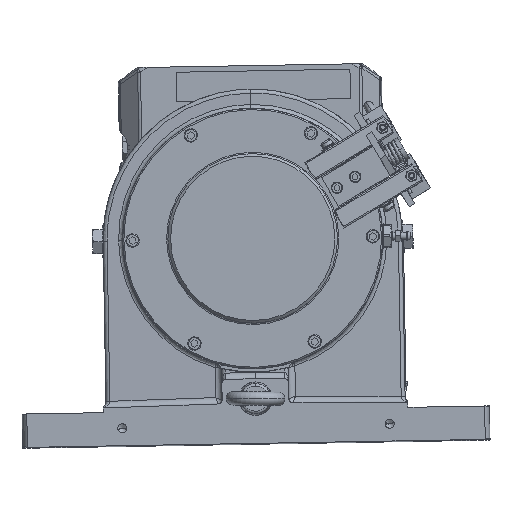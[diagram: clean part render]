
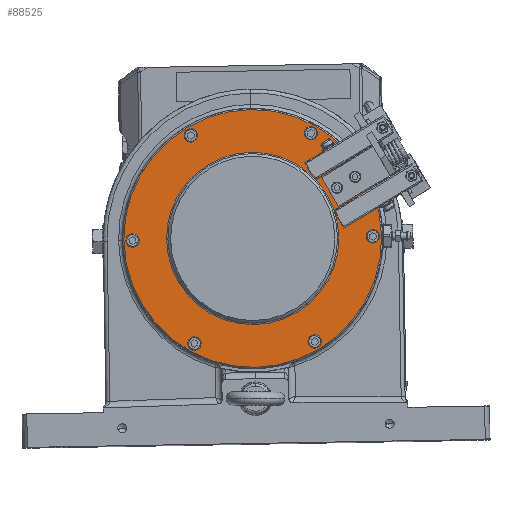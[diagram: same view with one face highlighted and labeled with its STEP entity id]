
A CAD part, top view. The second image highlights one B-rep face of the part: STEP entity #88525.
In plain terms, the highlighted planar face has unit normal (0, 0, 1) as drawn and (0, 0, -1) by its records, which use the part's own axes.
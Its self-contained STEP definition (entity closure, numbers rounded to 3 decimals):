
#87422=CARTESIAN_POINT('',(153.5,0.,-303.8));
#87423=DIRECTION('',(0.,0.,-1.));
#87424=DIRECTION('',(0.5,0.866,0.));
#87425=AXIS2_PLACEMENT_3D('',#87422,#87423,#87424);
#87430=CARTESIAN_POINT('',(153.5,0.,-303.8));
#87431=DIRECTION('',(0.,0.,-1.));
#87432=DIRECTION('',(-0.5,-0.866,0.));
#87433=AXIS2_PLACEMENT_3D('',#87430,#87431,#87432);
#87438=CARTESIAN_POINT('',(170.313,71.122,-303.8));
#87439=DIRECTION('',(0.,0.,1.));
#87440=DIRECTION('',(0.5,0.866,0.));
#87441=AXIS2_PLACEMENT_3D('',#87438,#87439,#87440);
#87446=CARTESIAN_POINT('',(170.313,71.122,-303.8));
#87447=DIRECTION('',(0.,0.,1.));
#87448=DIRECTION('',(-0.5,-0.866,0.));
#87449=AXIS2_PLACEMENT_3D('',#87446,#87447,#87448);
#87454=CARTESIAN_POINT('',(206.687,50.122,-303.8));
#87455=DIRECTION('',(0.,0.,1.));
#87456=DIRECTION('',(0.5,0.866,0.));
#87457=AXIS2_PLACEMENT_3D('',#87454,#87455,#87456);
#87462=CARTESIAN_POINT('',(206.687,50.122,-303.8));
#87463=DIRECTION('',(0.,0.,1.));
#87464=DIRECTION('',(-0.5,-0.866,0.));
#87465=AXIS2_PLACEMENT_3D('',#87462,#87463,#87464);
#87470=CARTESIAN_POINT('',(190.25,63.653,-303.8));
#87471=DIRECTION('',(0.,0.,1.));
#87472=DIRECTION('',(-0.5,-0.866,0.));
#87473=AXIS2_PLACEMENT_3D('',#87470,#87471,#87472);
#87478=CARTESIAN_POINT('',(190.25,63.653,-303.8));
#87479=DIRECTION('',(0.,0.,1.));
#87480=DIRECTION('',(0.5,0.866,0.));
#87481=AXIS2_PLACEMENT_3D('',#87478,#87479,#87480);
#87486=CARTESIAN_POINT('',(198.25,77.509,-303.8));
#87487=DIRECTION('',(0.,0.,1.));
#87488=DIRECTION('',(-0.5,-0.866,0.));
#87489=AXIS2_PLACEMENT_3D('',#87486,#87487,#87488);
#87494=CARTESIAN_POINT('',(198.25,77.509,-303.8));
#87495=DIRECTION('',(0.,0.,1.));
#87496=DIRECTION('',(0.5,0.866,0.));
#87497=AXIS2_PLACEMENT_3D('',#87494,#87495,#87496);
#87502=CARTESIAN_POINT('',(153.5,-90.,-303.8));
#87503=DIRECTION('',(0.,0.,1.));
#87504=DIRECTION('',(-0.5,-0.866,0.));
#87505=AXIS2_PLACEMENT_3D('',#87502,#87503,#87504);
#87510=CARTESIAN_POINT('',(153.5,-90.,-303.8));
#87511=DIRECTION('',(0.,0.,1.));
#87512=DIRECTION('',(0.5,0.866,0.));
#87513=AXIS2_PLACEMENT_3D('',#87510,#87511,#87512);
#87518=CARTESIAN_POINT('',(75.558,-45.,-303.8));
#87519=DIRECTION('',(0.,0.,1.));
#87520=DIRECTION('',(-0.5,-0.866,0.));
#87521=AXIS2_PLACEMENT_3D('',#87518,#87519,#87520);
#87526=CARTESIAN_POINT('',(75.558,-45.,-303.8));
#87527=DIRECTION('',(0.,0.,1.));
#87528=DIRECTION('',(0.5,0.866,0.));
#87529=AXIS2_PLACEMENT_3D('',#87526,#87527,#87528);
#87534=CARTESIAN_POINT('',(75.558,45.,-303.8));
#87535=DIRECTION('',(0.,0.,1.));
#87536=DIRECTION('',(-0.5,-0.866,0.));
#87537=AXIS2_PLACEMENT_3D('',#87534,#87535,#87536);
#87542=CARTESIAN_POINT('',(75.558,45.,-303.8));
#87543=DIRECTION('',(0.,0.,1.));
#87544=DIRECTION('',(0.5,0.866,0.));
#87545=AXIS2_PLACEMENT_3D('',#87542,#87543,#87544);
#87550=CARTESIAN_POINT('',(153.5,90.,-303.8));
#87551=DIRECTION('',(0.,0.,1.));
#87552=DIRECTION('',(-0.5,-0.866,0.));
#87553=AXIS2_PLACEMENT_3D('',#87550,#87551,#87552);
#87558=CARTESIAN_POINT('',(153.5,90.,-303.8));
#87559=DIRECTION('',(0.,0.,1.));
#87560=DIRECTION('',(0.5,0.866,0.));
#87561=AXIS2_PLACEMENT_3D('',#87558,#87559,#87560);
#87566=CARTESIAN_POINT('',(231.442,45.,-303.8));
#87567=DIRECTION('',(0.,0.,1.));
#87568=DIRECTION('',(-0.5,-0.866,0.));
#87569=AXIS2_PLACEMENT_3D('',#87566,#87567,#87568);
#87574=CARTESIAN_POINT('',(231.442,45.,-303.8));
#87575=DIRECTION('',(0.,0.,1.));
#87576=DIRECTION('',(0.5,0.866,0.));
#87577=AXIS2_PLACEMENT_3D('',#87574,#87575,#87576);
#87582=CARTESIAN_POINT('',(231.442,-45.,-303.8));
#87583=DIRECTION('',(0.,0.,1.));
#87584=DIRECTION('',(-0.5,-0.866,0.));
#87585=AXIS2_PLACEMENT_3D('',#87582,#87583,#87584);
#87590=CARTESIAN_POINT('',(231.442,-45.,-303.8));
#87591=DIRECTION('',(0.,0.,1.));
#87592=DIRECTION('',(0.5,0.866,0.));
#87593=AXIS2_PLACEMENT_3D('',#87590,#87591,#87592);
#87598=CARTESIAN_POINT('',(153.5,0.,-303.8));
#87599=DIRECTION('',(0.,0.,1.));
#87600=DIRECTION('',(-0.5,-0.866,0.));
#87601=AXIS2_PLACEMENT_3D('',#87598,#87599,#87600);
#87606=CARTESIAN_POINT('',(153.5,0.,-303.8));
#87607=DIRECTION('',(0.,0.,1.));
#87608=DIRECTION('',(0.5,0.866,0.));
#87609=AXIS2_PLACEMENT_3D('',#87606,#87607,#87608);
#88013=CARTESIAN_POINT('',(151.85,-92.858,-303.8));
#88014=CARTESIAN_POINT('',(155.15,-87.142,-303.8));
#88015=VERTEX_POINT('',#88013);
#88016=VERTEX_POINT('',#88014);
#88039=CARTESIAN_POINT('',(233.092,47.858,-303.8));
#88040=VERTEX_POINT('',#88039);
#88045=CARTESIAN_POINT('',(199.3,79.328,-303.8));
#88046=CARTESIAN_POINT('',(197.2,75.691,-303.8));
#88047=VERTEX_POINT('',#88045);
#88048=VERTEX_POINT('',#88046);
#88051=CARTESIAN_POINT('',(73.908,42.142,-303.8));
#88052=CARTESIAN_POINT('',(77.208,47.858,-303.8));
#88053=VERTEX_POINT('',#88051);
#88054=VERTEX_POINT('',#88052);
#88055=CARTESIAN_POINT('',(191.3,65.472,-303.8));
#88057=VERTEX_POINT('',#88055);
#88063=CARTESIAN_POINT('',(233.092,-42.142,-303.8));
#88064=CARTESIAN_POINT('',(229.792,-47.858,-303.8));
#88065=VERTEX_POINT('',#88063);
#88066=VERTEX_POINT('',#88064);
#88069=CARTESIAN_POINT('',(229.792,42.142,-303.8));
#88071=VERTEX_POINT('',#88069);
#88078=CARTESIAN_POINT('',(185.75,55.859,-303.8));
#88080=VERTEX_POINT('',#88078);
#88089=CARTESIAN_POINT('',(189.2,61.834,-303.8));
#88090=VERTEX_POINT('',#88089);
#88098=CARTESIAN_POINT('',(121.25,-55.859,-303.8));
#88100=VERTEX_POINT('',#88098);
#88113=CARTESIAN_POINT('',(173.813,77.184,-303.8));
#88114=CARTESIAN_POINT('',(166.813,65.06,-303.8));
#88115=VERTEX_POINT('',#88113);
#88116=VERTEX_POINT('',#88114);
#88123=CARTESIAN_POINT('',(105.25,-83.571,-303.8));
#88124=CARTESIAN_POINT('',(201.75,83.571,-303.8));
#88125=VERTEX_POINT('',#88123);
#88126=VERTEX_POINT('',#88124);
#88157=CARTESIAN_POINT('',(203.187,44.06,-303.8));
#88158=VERTEX_POINT('',#88157);
#88161=CARTESIAN_POINT('',(77.208,-42.142,-303.8));
#88162=CARTESIAN_POINT('',(73.908,-47.858,-303.8));
#88163=VERTEX_POINT('',#88161);
#88164=VERTEX_POINT('',#88162);
#88167=CARTESIAN_POINT('',(210.187,56.184,-303.8));
#88168=VERTEX_POINT('',#88167);
#88183=CARTESIAN_POINT('',(151.85,87.142,-303.8));
#88184=VERTEX_POINT('',#88183);
#88191=CARTESIAN_POINT('',(155.15,92.858,-303.8));
#88192=VERTEX_POINT('',#88191);
#88450=CARTESIAN_POINT('',(237.071,-48.25,-303.8));
#88451=DIRECTION('',(0.,0.,1.));
#88452=DIRECTION('',(-0.5,-0.866,0.));
#88453=AXIS2_PLACEMENT_3D('',#88450,#88451,#88452);
#88454=PLANE('',#88453);
#88455=ORIENTED_EDGE('',*,*,#88433,.F.);
#88457=ORIENTED_EDGE('',*,*,#88456,.F.);
#88458=EDGE_LOOP('',(#88455,#88457));
#88459=FACE_OUTER_BOUND('',#88458,.F.);
#88461=ORIENTED_EDGE('',*,*,#88460,.F.);
#88463=ORIENTED_EDGE('',*,*,#88462,.F.);
#88464=EDGE_LOOP('',(#88461,#88463));
#88465=FACE_BOUND('',#88464,.F.);
#88466=ORIENTED_EDGE('',*,*,#88202,.F.);
#88468=ORIENTED_EDGE('',*,*,#88467,.F.);
#88469=EDGE_LOOP('',(#88466,#88468));
#88470=FACE_BOUND('',#88469,.F.);
#88472=ORIENTED_EDGE('',*,*,#88471,.F.);
#88474=ORIENTED_EDGE('',*,*,#88473,.F.);
#88475=EDGE_LOOP('',(#88472,#88474));
#88476=FACE_BOUND('',#88475,.F.);
#88478=ORIENTED_EDGE('',*,*,#88477,.F.);
#88480=ORIENTED_EDGE('',*,*,#88479,.F.);
#88481=EDGE_LOOP('',(#88478,#88480));
#88482=FACE_BOUND('',#88481,.F.);
#88484=ORIENTED_EDGE('',*,*,#88483,.F.);
#88486=ORIENTED_EDGE('',*,*,#88485,.F.);
#88487=EDGE_LOOP('',(#88484,#88486));
#88488=FACE_BOUND('',#88487,.F.);
#88490=ORIENTED_EDGE('',*,*,#88489,.F.);
#88492=ORIENTED_EDGE('',*,*,#88491,.F.);
#88493=EDGE_LOOP('',(#88490,#88492));
#88494=FACE_BOUND('',#88493,.F.);
#88496=ORIENTED_EDGE('',*,*,#88495,.F.);
#88498=ORIENTED_EDGE('',*,*,#88497,.F.);
#88499=EDGE_LOOP('',(#88496,#88498));
#88500=FACE_BOUND('',#88499,.F.);
#88502=ORIENTED_EDGE('',*,*,#88501,.F.);
#88504=ORIENTED_EDGE('',*,*,#88503,.F.);
#88505=EDGE_LOOP('',(#88502,#88504));
#88506=FACE_BOUND('',#88505,.F.);
#88508=ORIENTED_EDGE('',*,*,#88507,.F.);
#88510=ORIENTED_EDGE('',*,*,#88509,.F.);
#88511=EDGE_LOOP('',(#88508,#88510));
#88512=FACE_BOUND('',#88511,.F.);
#88514=ORIENTED_EDGE('',*,*,#88513,.F.);
#88516=ORIENTED_EDGE('',*,*,#88515,.F.);
#88517=EDGE_LOOP('',(#88514,#88516));
#88518=FACE_BOUND('',#88517,.F.);
#88520=ORIENTED_EDGE('',*,*,#88519,.F.);
#88522=ORIENTED_EDGE('',*,*,#88521,.F.);
#88523=EDGE_LOOP('',(#88520,#88522));
#88524=FACE_BOUND('',#88523,.F.);
#88525=ADVANCED_FACE('',(#88459,#88465,#88470,#88476,#88482,#88488,#88494,
#88500,#88506,#88512,#88518,#88524),#88454,.F.);
#87426=CIRCLE('',#87425,96.5);
#87434=CIRCLE('',#87433,96.5);
#87442=CIRCLE('',#87441,7.);
#87450=CIRCLE('',#87449,7.);
#87458=CIRCLE('',#87457,7.);
#87466=CIRCLE('',#87465,7.);
#87474=CIRCLE('',#87473,2.1);
#87482=CIRCLE('',#87481,2.1);
#87490=CIRCLE('',#87489,2.1);
#87498=CIRCLE('',#87497,2.1);
#87506=CIRCLE('',#87505,3.3);
#87514=CIRCLE('',#87513,3.3);
#87522=CIRCLE('',#87521,3.3);
#87530=CIRCLE('',#87529,3.3);
#87538=CIRCLE('',#87537,3.3);
#87546=CIRCLE('',#87545,3.3);
#87554=CIRCLE('',#87553,3.3);
#87562=CIRCLE('',#87561,3.3);
#87570=CIRCLE('',#87569,3.3);
#87578=CIRCLE('',#87577,3.3);
#87586=CIRCLE('',#87585,3.3);
#87594=CIRCLE('',#87593,3.3);
#87602=CIRCLE('',#87601,64.5);
#87610=CIRCLE('',#87609,64.5);
#88202=EDGE_CURVE('',#88168,#88158,#87458,.T.);
#88433=EDGE_CURVE('',#88126,#88125,#87426,.T.);
#88456=EDGE_CURVE('',#88125,#88126,#87434,.T.);
#88460=EDGE_CURVE('',#88115,#88116,#87442,.T.);
#88462=EDGE_CURVE('',#88116,#88115,#87450,.T.);
#88467=EDGE_CURVE('',#88158,#88168,#87466,.T.);
#88471=EDGE_CURVE('',#88090,#88057,#87474,.T.);
#88473=EDGE_CURVE('',#88057,#88090,#87482,.T.);
#88477=EDGE_CURVE('',#88048,#88047,#87490,.T.);
#88479=EDGE_CURVE('',#88047,#88048,#87498,.T.);
#88483=EDGE_CURVE('',#88015,#88016,#87506,.T.);
#88485=EDGE_CURVE('',#88016,#88015,#87514,.T.);
#88489=EDGE_CURVE('',#88164,#88163,#87522,.T.);
#88491=EDGE_CURVE('',#88163,#88164,#87530,.T.);
#88495=EDGE_CURVE('',#88053,#88054,#87538,.T.);
#88497=EDGE_CURVE('',#88054,#88053,#87546,.T.);
#88501=EDGE_CURVE('',#88184,#88192,#87554,.T.);
#88503=EDGE_CURVE('',#88192,#88184,#87562,.T.);
#88507=EDGE_CURVE('',#88071,#88040,#87570,.T.);
#88509=EDGE_CURVE('',#88040,#88071,#87578,.T.);
#88513=EDGE_CURVE('',#88066,#88065,#87586,.T.);
#88515=EDGE_CURVE('',#88065,#88066,#87594,.T.);
#88519=EDGE_CURVE('',#88100,#88080,#87602,.T.);
#88521=EDGE_CURVE('',#88080,#88100,#87610,.T.);
